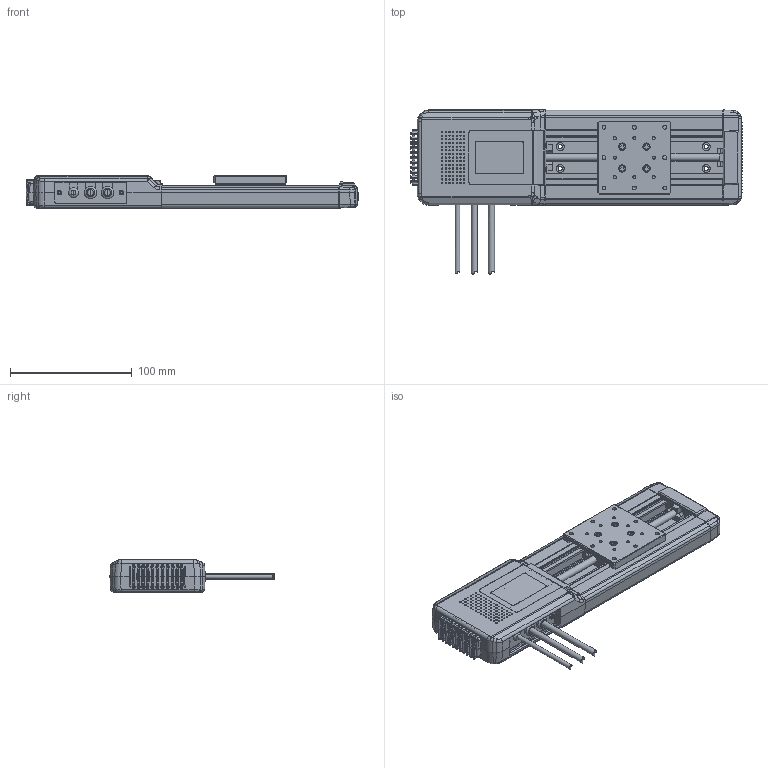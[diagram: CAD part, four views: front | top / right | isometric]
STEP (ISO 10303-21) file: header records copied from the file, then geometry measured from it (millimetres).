
FILE_DESCRIPTION((''),'2;1');
FILE_NAME('Z:\3DDATA\1_motorized stages\01_国内製品\3_Am\SGMV20\SGMV20-80(X)\SGMV2080-M02-13001-TS01.stp','2013-05-15T16:39:46',('s.makino'),(''),'Autodesk Inventor 2008','Autodesk Inventor 2008','');
FILE_SCHEMA(('AUTOMOTIVE_DESIGN { 1 0 10303 214 1 1 1 1 }'));
Length unit declared in the file: millimetre
Products named in the file (3): SGMV2080-M02-13001-TS01; SGMV2080-M02-13001-S09; SGMV2080-M02-13001-S03
Assembly tree (2 placements, depth 2):
  SGMV2080-M02-13001-TS01
    SGMV2080-M02-13001-S09
    SGMV2080-M02-13001-S03
Bounding box: 273.01 x 134.95 x 27 mm (x, y, z)
Volume: 233329.2 mm3; surface area: 177900.3 mm2
Topology: 2 solids, 65 shells, 3371 faces, 8834 edges, 5546 vertices
Faces by surface type: plane 1693, cylinder 964, bspline 348, sphere 219, cone 130, torus 17
Full cylindrical faces by diameter (mm): 1 x105, 1.5 x4, 2 x13, 2.2 x2, 2.6 x23, 2.7 x2, 3 x15, 3.1 x8, 3.5 x7, 3.8 x12, 4 x12, 4.2 x2, 4.5 x17, 4.7 x2, 5 x7, 5.2 x1, 5.5 x8, 6 x3, 6.5 x1, 7 x4, 8 x2, 10 x4, 10.8 x1, 16 x2
Entity records: 106144 total; most frequent: CARTESIAN_POINT 28717, DIRECTION 15940, ORIENTED_EDGE 15270, EDGE_CURVE 7635, AXIS2_PLACEMENT_3D 5593, VERTEX_POINT 5118, VECTOR 4754, LINE 4754
